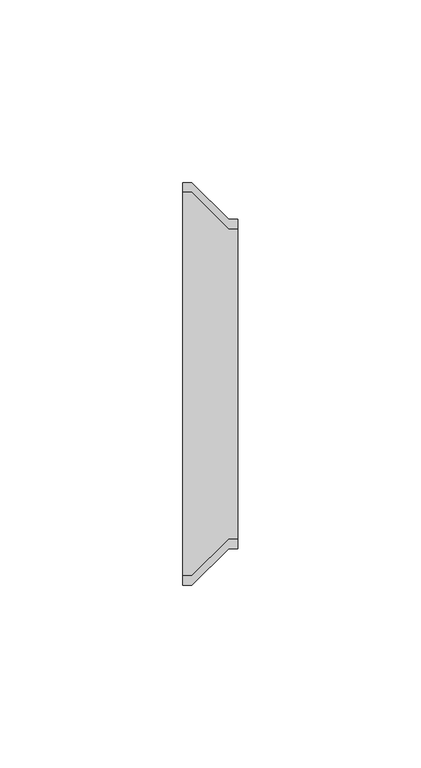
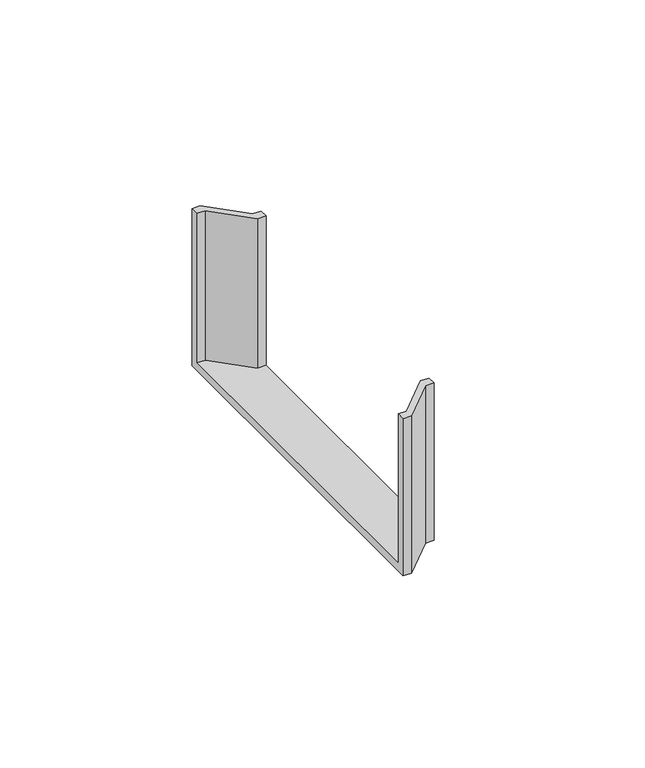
"""IFC4 building model written with IfcOpenShell, lengths in millimetres: cable carrier fitting geometry, КНС_Переходник_ILF_DKC : Переходник_ILF_DKC."""

from ifc_helpers import new_model, si_unit, origin, place, context, project, spatial, faceted_brep, source, transform, mapped, element, save


def cable_carrier_fitting_8765ebe6(model_context):
    return source(origin(), model_context, "Body", "Brep", [
        faceted_brep([(-7.5, 55.0, -25.0), (-7.5, -55.0, -25.0), (-7.5, -55.0, 25.0), (-7.5, -52.5, 25.0), (-7.5, -52.5, -22.5), (-7.5, 52.5, -22.5), (-7.5, 52.5, 25.0), (-7.5, 55.0, 25.0), (-5.0, 55.0, 25.0), (-5.0, 55.0, -25.0), (-5.0, 52.5, 25.0), (5.0, 42.5, 25.0), (7.5, 42.5, 25.0), (7.5, 45.0, 25.0), (5.0, 45.0, 25.0), (-5.0, 52.5, -22.5), (-5.0, -52.5, -22.5), (5.0, -42.5, -22.5), (7.5, -42.5, -22.5), (7.5, 42.5, -22.5), (5.0, 42.5, -22.5), (-5.0, -52.5, 25.0), (-5.0, -55.0, 25.0), (5.0, -45.0, 25.0), (7.5, -45.0, 25.0), (7.5, -42.5, 25.0), (5.0, -42.5, 25.0), (-5.0, -55.0, -25.0), (5.0, 45.0, -25.0), (7.5, 45.0, -25.0), (7.5, -45.0, -25.0), (5.0, -45.0, -25.0)], [[[0, 1, 2, 3, 4, 5, 6, 7]], [[0, 7, 8, 9]], [[7, 6, 10, 11, 12, 13, 14, 8]], [[6, 5, 15, 10]], [[5, 4, 16, 17, 18, 19, 20, 15]], [[4, 3, 21, 16]], [[3, 2, 22, 23, 24, 25, 26, 21]], [[2, 1, 27, 22]], [[1, 0, 9, 28, 29, 30, 31, 27]], [[15, 20, 11, 10]], [[17, 16, 21, 26]], [[23, 22, 27, 31]], [[28, 9, 8, 14]], [[29, 13, 12, 19, 18, 25, 24, 30]], [[30, 24, 23, 31]], [[25, 18, 17, 26]], [[19, 12, 11, 20]], [[13, 29, 28, 14]]]),
    ])


if __name__ == "__main__":
    model = new_model("IFC4")
    model_context = context("Model", 3, world=origin())
    ifc_project = project(units=[si_unit("LENGTHUNIT", "METRE", prefix="MILLI")], contexts=[model_context])
    site = spatial("IfcSite", under=ifc_project)
    building = spatial("IfcBuilding", under=site)
    placement = place(None, origin())
    cable_carrier_fitting_shape = cable_carrier_fitting_8765ebe6(model_context)
    element("IfcCableCarrierFitting", 1, ObjectType="КНС_Переходник_ILF_DKC : Переходник_ILF_DKC", at=placement, inside=building, context=model_context, shape_type="MappedRepresentation", body=[
        mapped(cable_carrier_fitting_shape, transform((0.0, 0.0, 0.0), x_axis=(1.0, 0.0, 0.0), y_axis=(0.0, 1.0, 0.0), z_axis=(0.0, 0.0, 1.0))),
    ])
    save(model, "model.ifc")
